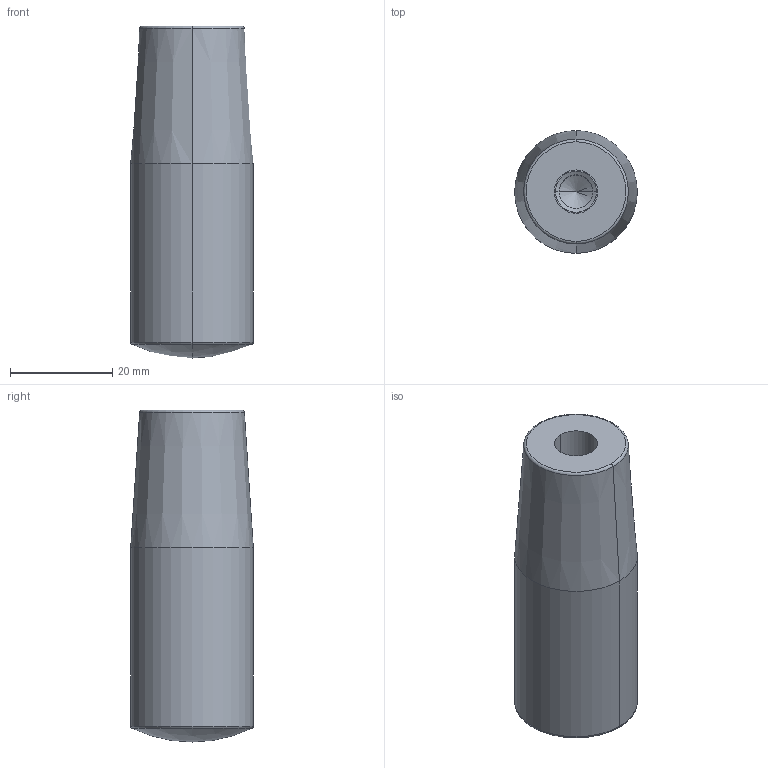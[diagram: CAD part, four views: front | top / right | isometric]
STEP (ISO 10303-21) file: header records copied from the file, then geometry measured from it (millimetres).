
FILE_DESCRIPTION (( 'STEP AP214' ), '1' );
FILE_NAME ('519.6-24-M8.step', '2019-05-07T12:47:10', ( 'user' ), ( '' ), 'SwSTEP 2.0', 'SolidWorks 2019', '' );
FILE_SCHEMA (( 'AUTOMOTIVE_DESIGN' ));
Length unit declared in the file: millimetre
Products named in the file (1): 519.6-24-M8
Bounding box: 24 x 24 x 65 mm (x, y, z)
Volume: 25689.4 mm3; surface area: 6086.9 mm2
Topology: 1 solids, 1 shells, 20 faces, 40 edges, 22 vertices
Faces by surface type: cone 6, cylinder 6, torus 4, sphere 2, plane 2
Entity records: 564 total; most frequent: DIRECTION 106, CARTESIAN_POINT 81, ORIENTED_EDGE 76, AXIS2_PLACEMENT_3D 47, EDGE_CURVE 38, CIRCLE 26, EDGE_LOOP 22, VERTEX_POINT 22
